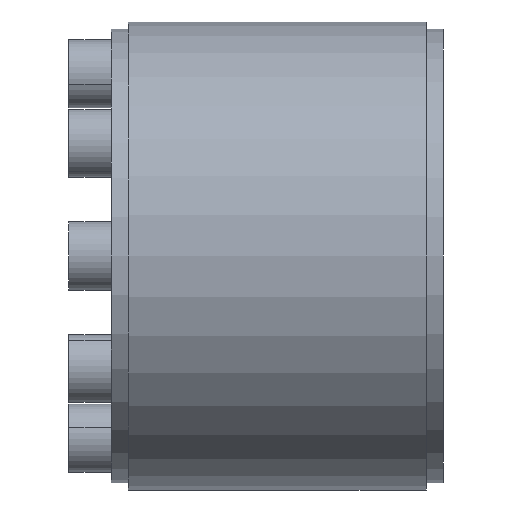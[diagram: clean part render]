
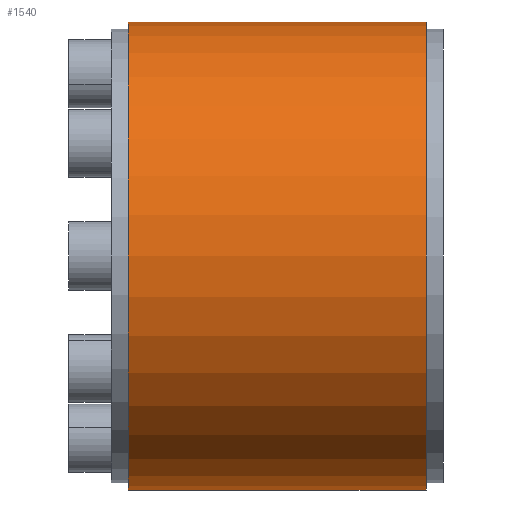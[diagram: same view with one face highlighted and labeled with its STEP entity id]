
A CAD part, front view. The second image highlights one B-rep face of the part: STEP entity #1540.
In plain terms, the highlighted cylindrical face has radius 55 mm (diameter 110 mm), a partial arc.
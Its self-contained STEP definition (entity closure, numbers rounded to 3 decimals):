
#827 = CARTESIAN_POINT ( 'NONE',  ( 4., 0., 55. ) ) ;
#833 = CARTESIAN_POINT ( 'NONE',  ( 4., 0., -55. ) ) ;
#834 = DIRECTION ( 'NONE',  ( -1., 0., 0. ) ) ;
#835 = VECTOR ( 'NONE', #834, 1000. ) ;
#836 = CARTESIAN_POINT ( 'NONE',  ( 0., 0., -55. ) ) ;
#837 = LINE ( 'NONE', #836, #835 ) ;
#1050 = LINE ( 'NONE', #1100, #1099 ) ;
#1098 = DIRECTION ( 'NONE',  ( -1., 0., 0. ) ) ;
#1099 = VECTOR ( 'NONE', #1098, 1000. ) ;
#1100 = CARTESIAN_POINT ( 'NONE',  ( 0., 0., 55. ) ) ;
#1219 = CARTESIAN_POINT ( 'NONE',  ( 74., 0., -55. ) ) ;
#1220 = CARTESIAN_POINT ( 'NONE',  ( 74., 0., 55. ) ) ;
#1534 = ORIENTED_EDGE ( 'NONE', *, *, #3646, .F. ) ;
#1535 = ORIENTED_EDGE ( 'NONE', *, *, #3825, .T. ) ;
#1538 = ORIENTED_EDGE ( 'NONE', *, *, #1750, .T. ) ;
#1540 = ADVANCED_FACE ( 'NONE', ( #3992 ), #3985, .T. ) ;
#1555 = EDGE_LOOP ( 'NONE', ( #1534, #1538, #1535, #1751 ) ) ;
#1750 = EDGE_CURVE ( 'NONE', #3843, #3842, #4196, .T. ) ;
#1751 = ORIENTED_EDGE ( 'NONE', *, *, #1752, .F. ) ;
#1752 = EDGE_CURVE ( 'NONE', #3647, #3650, #4192, .T. ) ;
#3646 = EDGE_CURVE ( 'NONE', #3843, #3647, #837, .T. ) ;
#3647 = VERTEX_POINT ( 'NONE', #833 ) ;
#3650 = VERTEX_POINT ( 'NONE', #827 ) ;
#3825 = EDGE_CURVE ( 'NONE', #3842, #3650, #1050, .T. ) ;
#3842 = VERTEX_POINT ( 'NONE', #1220 ) ;
#3843 = VERTEX_POINT ( 'NONE', #1219 ) ;
#3982 = DIRECTION ( 'NONE',  ( 0., 0., 1. ) ) ;
#3983 = DIRECTION ( 'NONE',  ( -1., 0., 0. ) ) ;
#3984 = AXIS2_PLACEMENT_3D ( 'NONE', #3987, #3983, #3982 ) ;
#3985 = CYLINDRICAL_SURFACE ( 'NONE', #3984, 55. ) ;
#3987 = CARTESIAN_POINT ( 'NONE',  ( 0., 0., 0. ) ) ;
#3992 = FACE_OUTER_BOUND ( 'NONE', #1555, .T. ) ;
#4126 = CARTESIAN_POINT ( 'NONE',  ( 74., 0., 0. ) ) ;
#4188 = DIRECTION ( 'NONE',  ( 0., 0., 1. ) ) ;
#4189 = DIRECTION ( 'NONE',  ( -1., 0., 0. ) ) ;
#4190 = CARTESIAN_POINT ( 'NONE',  ( 4., 0., 0. ) ) ;
#4191 = AXIS2_PLACEMENT_3D ( 'NONE', #4190, #4189, #4188 ) ;
#4192 = CIRCLE ( 'NONE', #4191, 55. ) ;
#4193 = DIRECTION ( 'NONE',  ( 0., 0., 1. ) ) ;
#4194 = DIRECTION ( 'NONE',  ( -1., 0., 0. ) ) ;
#4195 = AXIS2_PLACEMENT_3D ( 'NONE', #4126, #4194, #4193 ) ;
#4196 = CIRCLE ( 'NONE', #4195, 55. ) ;
